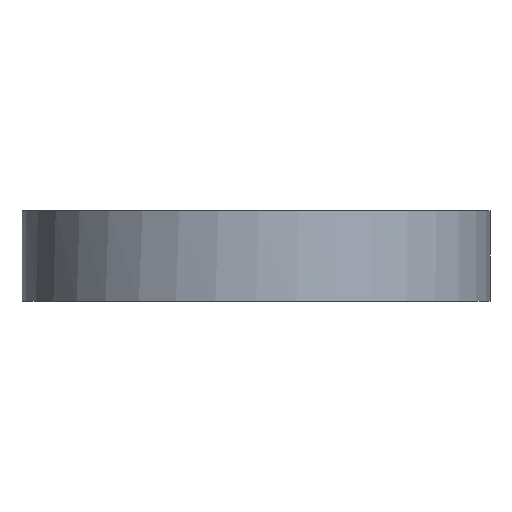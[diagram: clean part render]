
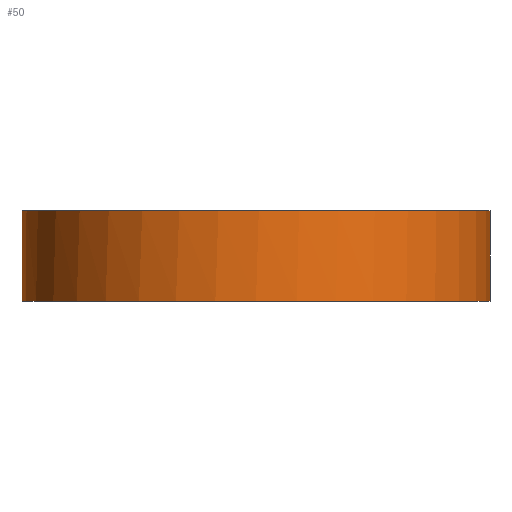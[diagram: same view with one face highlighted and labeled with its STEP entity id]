
A CAD part, front view. The second image highlights one B-rep face of the part: STEP entity #50.
In plain terms, the highlighted cylindrical face has radius 13.09 mm (diameter 26.18 mm), a full revolution.
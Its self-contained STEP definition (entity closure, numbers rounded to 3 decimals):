
#21 = EDGE_CURVE('',#22,#24,#26,.T.);
#22 = VERTEX_POINT('',#23);
#23 = CARTESIAN_POINT('',(7.913,10.427,-0.05));
#24 = VERTEX_POINT('',#25);
#25 = CARTESIAN_POINT('',(6.538,11.341,-0.05));
#26 = CIRCLE('',#27,13.09);
#27 = AXIS2_PLACEMENT_3D('',#28,#29,#30);
#28 = CARTESIAN_POINT('',(0.,0.,-0.05));
#29 = DIRECTION('',(0.,0.,1.));
#30 = DIRECTION('',(1.,0.,0.));
#50 = ADVANCED_FACE('',(#51,#185),#222,.T.);
#51 = FACE_BOUND('',#52,.T.);
#52 = EDGE_LOOP('',(#53,#63,#72,#80,#89,#95,#96,#145,#153,#162,#170,#177
    ,#178));
#53 = ORIENTED_EDGE('',*,*,#54,.T.);
#54 = EDGE_CURVE('',#55,#57,#59,.T.);
#55 = VERTEX_POINT('',#56);
#56 = CARTESIAN_POINT('',(13.09,0.,-5.1));
#57 = VERTEX_POINT('',#58);
#58 = CARTESIAN_POINT('',(13.09,0.,-0.05));
#59 = LINE('',#60,#61);
#60 = CARTESIAN_POINT('',(13.09,0.,-5.1));
#61 = VECTOR('',#62,1.);
#62 = DIRECTION('',(0.,0.,1.));
#63 = ORIENTED_EDGE('',*,*,#64,.F.);
#64 = EDGE_CURVE('',#65,#57,#67,.T.);
#65 = VERTEX_POINT('',#66);
#66 = CARTESIAN_POINT('',(6.091,11.586,-0.05));
#67 = CIRCLE('',#68,13.09);
#68 = AXIS2_PLACEMENT_3D('',#69,#70,#71);
#69 = CARTESIAN_POINT('',(0.,0.,-0.05));
#70 = DIRECTION('',(0.,0.,1.));
#71 = DIRECTION('',(1.,0.,0.));
#72 = ORIENTED_EDGE('',*,*,#73,.F.);
#73 = EDGE_CURVE('',#74,#65,#76,.T.);
#74 = VERTEX_POINT('',#75);
#75 = CARTESIAN_POINT('',(6.091,11.586,-0.75));
#76 = LINE('',#77,#78);
#77 = CARTESIAN_POINT('',(6.091,11.586,-5.1));
#78 = VECTOR('',#79,1.);
#79 = DIRECTION('',(0.,0.,1.));
#80 = ORIENTED_EDGE('',*,*,#81,.F.);
#81 = EDGE_CURVE('',#82,#74,#84,.T.);
#82 = VERTEX_POINT('',#83);
#83 = CARTESIAN_POINT('',(6.538,11.341,-0.75));
#84 = CIRCLE('',#85,13.09);
#85 = AXIS2_PLACEMENT_3D('',#86,#87,#88);
#86 = CARTESIAN_POINT('',(0.,0.,-0.75));
#87 = DIRECTION('',(0.,0.,1.));
#88 = DIRECTION('',(1.,0.,0.));
#89 = ORIENTED_EDGE('',*,*,#90,.T.);
#90 = EDGE_CURVE('',#82,#24,#91,.T.);
#91 = LINE('',#92,#93);
#92 = CARTESIAN_POINT('',(6.538,11.341,-5.1));
#93 = VECTOR('',#94,1.);
#94 = DIRECTION('',(0.,0.,1.));
#95 = ORIENTED_EDGE('',*,*,#21,.F.);
#96 = ORIENTED_EDGE('',*,*,#97,.F.);
#97 = EDGE_CURVE('',#98,#22,#100,.T.);
#98 = VERTEX_POINT('',#99);
#99 = CARTESIAN_POINT('',(9.205,9.306,-1.927)
  );
#100 = B_SPLINE_CURVE_WITH_KNOTS('',7,(#101,#102,#103,#104,#105,#106,
    #107,#108,#109,#110,#111,#112,#113,#114,#115,#116,#117,#118,#119,
    #120,#121,#122,#123,#124,#125,#126,#127,#128,#129,#130,#131,#132,
    #133,#134,#135,#136,#137,#138,#139,#140,#141,#142,#143,#144),
  .UNSPECIFIED.,.F.,.F.,(8,6,6,6,6,6,6,8),(0.,0.22,
    0.417,0.543,0.679,0.802,
    0.909,1.),.UNSPECIFIED.);
#101 = CARTESIAN_POINT('',(9.205,9.306,-1.927
    ));
#102 = CARTESIAN_POINT('',(9.155,9.356,-2.061
    ));
#103 = CARTESIAN_POINT('',(9.09,9.42,-2.191)
  );
#104 = CARTESIAN_POINT('',(9.009,9.498,-2.312
    ));
#105 = CARTESIAN_POINT('',(8.913,9.589,-2.419)
  );
#106 = CARTESIAN_POINT('',(8.802,9.691,-2.509
    ));
#107 = CARTESIAN_POINT('',(8.677,9.803,-2.577
    ));
#108 = CARTESIAN_POINT('',(8.416,10.027,
    -2.654));
#109 = CARTESIAN_POINT('',(8.285,10.137,-2.667)
  );
#110 = CARTESIAN_POINT('',(8.152,10.244,
    -2.655));
#111 = CARTESIAN_POINT('',(8.021,10.347,-2.618
    ));
#112 = CARTESIAN_POINT('',(7.897,10.441,
    -2.559));
#113 = CARTESIAN_POINT('',(7.784,10.525,
    -2.481));
#114 = CARTESIAN_POINT('',(7.622,10.642,
    -2.336));
#115 = CARTESIAN_POINT('',(7.564,10.684,
    -2.274));
#116 = CARTESIAN_POINT('',(7.511,10.721,
    -2.208));
#117 = CARTESIAN_POINT('',(7.463,10.754,-2.138)
  );
#118 = CARTESIAN_POINT('',(7.42,10.784,
    -2.065));
#119 = CARTESIAN_POINT('',(7.383,10.81,
    -1.99));
#120 = CARTESIAN_POINT('',(7.315,10.855,-1.83
    ));
#121 = CARTESIAN_POINT('',(7.286,10.875,
    -1.744));
#122 = CARTESIAN_POINT('',(7.263,10.891,-1.657
    ));
#123 = CARTESIAN_POINT('',(7.245,10.902,
    -1.568));
#124 = CARTESIAN_POINT('',(7.234,10.91,
    -1.479));
#125 = CARTESIAN_POINT('',(7.228,10.914,
    -1.39));
#126 = CARTESIAN_POINT('',(7.228,10.914,
    -1.219));
#127 = CARTESIAN_POINT('',(7.232,10.911,-1.138)
  );
#128 = CARTESIAN_POINT('',(7.242,10.904,-1.058
    ));
#129 = CARTESIAN_POINT('',(7.256,10.895,-0.978
    ));
#130 = CARTESIAN_POINT('',(7.275,10.882,
    -0.899));
#131 = CARTESIAN_POINT('',(7.299,10.866,
    -0.821));
#132 = CARTESIAN_POINT('',(7.352,10.83,
    -0.678));
#133 = CARTESIAN_POINT('',(7.381,10.811,
    -0.613));
#134 = CARTESIAN_POINT('',(7.413,10.789,
    -0.549));
#135 = CARTESIAN_POINT('',(7.449,10.764,
    -0.487));
#136 = CARTESIAN_POINT('',(7.489,10.737,
    -0.427));
#137 = CARTESIAN_POINT('',(7.532,10.706,-0.37)
  );
#138 = CARTESIAN_POINT('',(7.619,10.644,-0.27)
  );
#139 = CARTESIAN_POINT('',(7.662,10.613,
    -0.226));
#140 = CARTESIAN_POINT('',(7.708,10.58,-0.184
    ));
#141 = CARTESIAN_POINT('',(7.756,10.545,
    -0.145));
#142 = CARTESIAN_POINT('',(7.806,10.508,
    -0.11));
#143 = CARTESIAN_POINT('',(7.859,10.469,
    -0.078));
#144 = CARTESIAN_POINT('',(7.913,10.427,-0.05));
#145 = ORIENTED_EDGE('',*,*,#146,.T.);
#146 = EDGE_CURVE('',#98,#147,#149,.T.);
#147 = VERTEX_POINT('',#148);
#148 = CARTESIAN_POINT('',(9.205,9.306,-0.75));
#149 = LINE('',#150,#151);
#150 = CARTESIAN_POINT('',(9.205,9.306,-5.1));
#151 = VECTOR('',#152,1.);
#152 = DIRECTION('',(0.,0.,1.));
#153 = ORIENTED_EDGE('',*,*,#154,.F.);
#154 = EDGE_CURVE('',#155,#147,#157,.T.);
#155 = VERTEX_POINT('',#156);
#156 = CARTESIAN_POINT('',(9.235,9.277,-0.75));
#157 = CIRCLE('',#158,13.09);
#158 = AXIS2_PLACEMENT_3D('',#159,#160,#161);
#159 = CARTESIAN_POINT('',(0.,0.,-0.75));
#160 = DIRECTION('',(0.,0.,1.));
#161 = DIRECTION('',(1.,0.,0.));
#162 = ORIENTED_EDGE('',*,*,#163,.T.);
#163 = EDGE_CURVE('',#155,#164,#166,.T.);
#164 = VERTEX_POINT('',#165);
#165 = CARTESIAN_POINT('',(9.235,9.277,-0.05));
#166 = LINE('',#167,#168);
#167 = CARTESIAN_POINT('',(9.235,9.277,-5.1));
#168 = VECTOR('',#169,1.);
#169 = DIRECTION('',(0.,0.,1.));
#170 = ORIENTED_EDGE('',*,*,#171,.F.);
#171 = EDGE_CURVE('',#57,#164,#172,.T.);
#172 = CIRCLE('',#173,13.09);
#173 = AXIS2_PLACEMENT_3D('',#174,#175,#176);
#174 = CARTESIAN_POINT('',(0.,0.,-0.05));
#175 = DIRECTION('',(0.,0.,1.));
#176 = DIRECTION('',(1.,0.,0.));
#177 = ORIENTED_EDGE('',*,*,#54,.F.);
#178 = ORIENTED_EDGE('',*,*,#179,.T.);
#179 = EDGE_CURVE('',#55,#55,#180,.T.);
#180 = CIRCLE('',#181,13.09);
#181 = AXIS2_PLACEMENT_3D('',#182,#183,#184);
#182 = CARTESIAN_POINT('',(0.,0.,-5.1));
#183 = DIRECTION('',(0.,0.,1.));
#184 = DIRECTION('',(1.,0.,0.));
#185 = FACE_BOUND('',#186,.T.);
#186 = EDGE_LOOP('',(#187));
#187 = ORIENTED_EDGE('',*,*,#188,.F.);
#188 = EDGE_CURVE('',#189,#189,#191,.T.);
#189 = VERTEX_POINT('',#190);
#190 = CARTESIAN_POINT('',(6.921,11.111,-1.7));
#191 = B_SPLINE_CURVE_WITH_KNOTS('',8,(#192,#193,#194,#195,#196,#197,
    #198,#199,#200,#201,#202,#203,#204,#205,#206,#207,#208,#209,#210,
    #211,#212,#213,#214,#215,#216,#217,#218,#219,#220,#221),
  .UNSPECIFIED.,.T.,.F.,(9,7,7,7,9),(0.,0.25,0.5,
    0.75,1.),.UNSPECIFIED.);
#192 = CARTESIAN_POINT('',(6.921,11.111,-1.7));
#193 = CARTESIAN_POINT('',(6.921,11.111,
    -1.793));
#194 = CARTESIAN_POINT('',(6.904,11.121,
    -1.888));
#195 = CARTESIAN_POINT('',(6.869,11.143,-1.979
    ));
#196 = CARTESIAN_POINT('',(6.817,11.175,
    -2.06));
#197 = CARTESIAN_POINT('',(6.749,11.216,
    -2.127));
#198 = CARTESIAN_POINT('',(6.669,11.264,
    -2.175));
#199 = CARTESIAN_POINT('',(6.581,11.316,-2.2));
#200 = CARTESIAN_POINT('',(6.398,11.42,-2.2));
#201 = CARTESIAN_POINT('',(6.309,11.47,
    -2.175));
#202 = CARTESIAN_POINT('',(6.226,11.515,
    -2.127));
#203 = CARTESIAN_POINT('',(6.156,11.553,
    -2.061));
#204 = CARTESIAN_POINT('',(6.101,11.581,-1.979)
  );
#205 = CARTESIAN_POINT('',(6.064,11.601,
    -1.888));
#206 = CARTESIAN_POINT('',(6.047,11.61,
    -1.793));
#207 = CARTESIAN_POINT('',(6.047,11.61,
    -1.607));
#208 = CARTESIAN_POINT('',(6.064,11.601,
    -1.512));
#209 = CARTESIAN_POINT('',(6.101,11.581,-1.421)
  );
#210 = CARTESIAN_POINT('',(6.156,11.553,
    -1.339));
#211 = CARTESIAN_POINT('',(6.226,11.515,
    -1.273));
#212 = CARTESIAN_POINT('',(6.309,11.47,
    -1.225));
#213 = CARTESIAN_POINT('',(6.398,11.42,-1.2));
#214 = CARTESIAN_POINT('',(6.581,11.316,-1.2));
#215 = CARTESIAN_POINT('',(6.669,11.264,
    -1.225));
#216 = CARTESIAN_POINT('',(6.749,11.216,-1.273
    ));
#217 = CARTESIAN_POINT('',(6.817,11.175,
    -1.34));
#218 = CARTESIAN_POINT('',(6.869,11.143,
    -1.421));
#219 = CARTESIAN_POINT('',(6.904,11.121,
    -1.512));
#220 = CARTESIAN_POINT('',(6.921,11.111,
    -1.607));
#221 = CARTESIAN_POINT('',(6.921,11.111,-1.7));
#222 = CYLINDRICAL_SURFACE('',#223,13.09);
#223 = AXIS2_PLACEMENT_3D('',#224,#225,#226);
#224 = CARTESIAN_POINT('',(0.,0.,-5.1));
#225 = DIRECTION('',(0.,0.,1.));
#226 = DIRECTION('',(1.,0.,0.));
